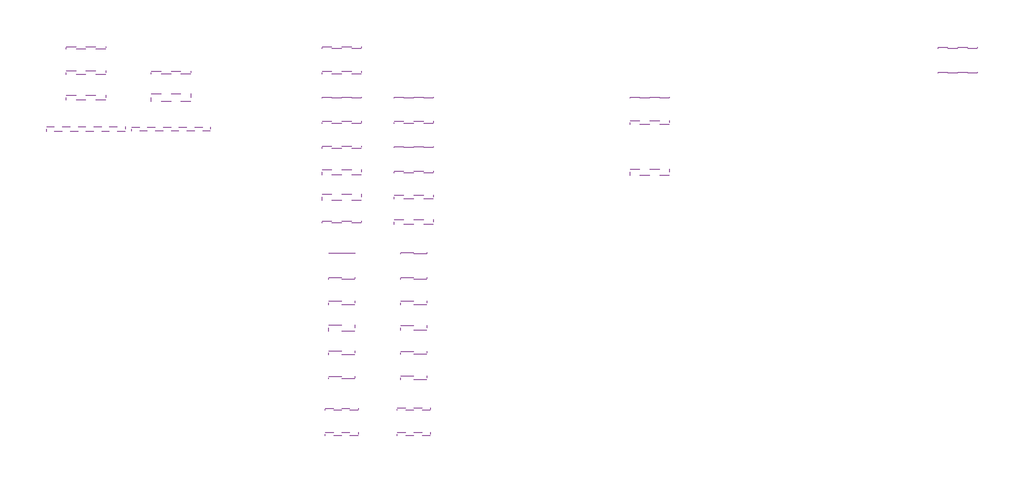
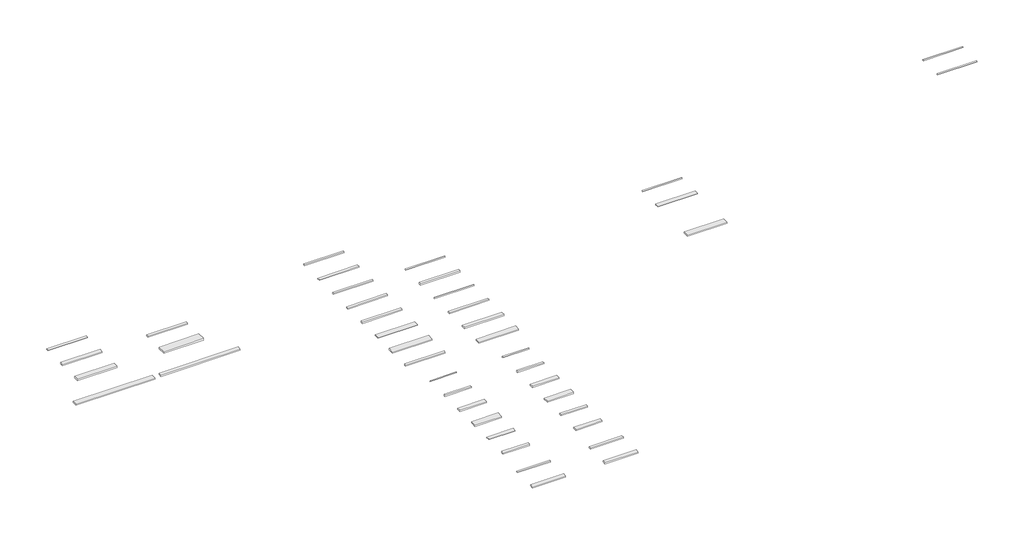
# One storey: 42 cable carrier segments.
"""IFC4 building model written with IfcOpenShell, lengths in millimetres."""

from ifc_helpers import new_model, si_unit, frame, origin, place, context, project, spatial, polyline, outline, extrude, element, save

model = new_model("IFC4")

# Units and contexts
model_context = context("Model", 3, world=origin())
ifc_project = project(units=[si_unit("LENGTHUNIT", "METRE", prefix="MILLI")], contexts=[model_context])

# Site, building, storey
site = spatial("IfcSite", under=ifc_project)
building = spatial("IfcBuilding", under=site)
storey = spatial("IfcBuildingStorey", under=building, Name="Этаж 01", Elevation=0.0)

# Cable carrier segments
placement = place(None, origin())
element("IfcCableCarrierSegment", 1, ObjectType="IEK_Листовой_перфорированный_L3000_t0.45_BBP", at=placement, inside=storey, context=model_context, shape_type="SweptSolid", body=[
    extrude(outline(polyline([(250.0, -3425.0), (250.0, -3275.0), (3250.0, -3275.0), (3250.0, -3425.0), (250.0, -3425.0)])), frame((0.0, 0.0, 2975.0), z_axis=(0.0, 0.0, 1.0), x_axis=(1.0, 0.0, 0.0)), (0.0, 0.0, 1.0), 50.0),
])
element("IfcCableCarrierSegment", 2, ObjectType="IEK_Листовой_перфорированный_L3000_t0.55_SZ", at=placement, inside=storey, context=model_context, shape_type="SweptSolid", body=[
    extrude(outline(polyline([(250.0, -5350.0), (250.0, -5150.0), (3250.0, -5150.0), (3250.0, -5350.0), (250.0, -5350.0)])), frame((0.0, 0.0, 2975.0), z_axis=(0.0, 0.0, 1.0), x_axis=(1.0, 0.0, 0.0)), (0.0, 0.0, 1.0), 50.0),
])
element("IfcCableCarrierSegment", 3, ObjectType="IEK_Листовой_перфорированный_L3000_t0.7_SZ", at=placement, inside=storey, context=model_context, shape_type="SweptSolid", body=[
    extrude(outline(polyline([(250.0, -7200.0), (250.0, -7100.0), (3250.0, -7100.0), (3250.0, -7200.0), (250.0, -7200.0)])), frame((0.0, 0.0, 2950.0), z_axis=(0.0, 0.0, 1.0), x_axis=(1.0, 0.0, 0.0)), (0.0, 0.0, 1.0), 100.0),
])
element("IfcCableCarrierSegment", 4, ObjectType="IEK_Листовой_перфорированный_L3000_t0.8_SZ", at=placement, inside=storey, context=model_context, shape_type="SweptSolid", body=[
    extrude(outline(polyline([(250.0, -9150.0), (250.0, -8950.0), (3250.0, -8950.0), (3250.0, -9150.0), (250.0, -9150.0)])), frame((0.0, 0.0, 2960.0), z_axis=(0.0, 0.0, 1.0), x_axis=(1.0, 0.0, 0.0)), (0.0, 0.0, 1.0), 80.0),
])
element("IfcCableCarrierSegment", 5, ObjectType="IEK_Листовой_перфорированный_L3000_t1.0_SZ", at=placement, inside=storey, context=model_context, shape_type="SweptSolid", body=[
    extrude(outline(polyline([(250.0, -11050.0), (250.0, -10850.0), (3250.0, -10850.0), (3250.0, -11050.0), (250.0, -11050.0)])), frame((0.0, 0.0, 2950.0), z_axis=(0.0, 0.0, 1.0), x_axis=(1.0, 0.0, 0.0)), (0.0, 0.0, 1.0), 100.0),
])
element("IfcCableCarrierSegment", 6, ObjectType="IEK_Листовой_перфорированный_L3000_t1.2_SZ", at=placement, inside=storey, context=model_context, shape_type="SweptSolid", body=[
    extrude(outline(polyline([(250.0, -13050.0), (250.0, -12650.0), (3250.0, -12650.0), (3250.0, -13050.0), (250.0, -13050.0)])), frame((0.0, 0.0, 2975.0), z_axis=(0.0, 0.0, 1.0), x_axis=(1.0, 0.0, 0.0)), (0.0, 0.0, 1.0), 50.0),
])
element("IfcCableCarrierSegment", 7, ObjectType="IEK_Листовой_перфорированный_L3000_t1.5_SZ", at=placement, inside=storey, context=model_context, shape_type="SweptSolid", body=[
    extrude(outline(polyline([(250.0, -15000.0), (250.0, -14500.0), (3250.0, -14500.0), (3250.0, -15000.0), (250.0, -15000.0)])), frame((0.0, 0.0, 2950.0), z_axis=(0.0, 0.0, 1.0), x_axis=(1.0, 0.0, 0.0)), (0.0, 0.0, 1.0), 100.0),
])
element("IfcCableCarrierSegment", 8, ObjectType="IEK_Листовой_перфорированный_L3000_t2.0_SZ", at=placement, inside=storey, context=model_context, shape_type="SweptSolid", body=[
    extrude(outline(polyline([(250.0, -16725.0), (250.0, -16575.0), (3250.0, -16575.0), (3250.0, -16725.0), (250.0, -16725.0)])), frame((0.0, 0.0, 2950.0), z_axis=(0.0, 0.0, 1.0), x_axis=(1.0, 0.0, 0.0)), (0.0, 0.0, 1.0), 100.0),
])
element("IfcCableCarrierSegment", 9, ObjectType="IEK_Листовой_перфорированный_L2000_t0.7_SZ", at=placement, inside=storey, context=model_context, shape_type="SweptSolid", body=[
    extrude(outline(polyline([(750.0, -19075.0), (750.0, -19025.0), (2750.0, -19025.0), (2750.0, -19075.0), (750.0, -19075.0)])), frame((0.0, 0.0, 2975.0), z_axis=(0.0, 0.0, 1.0), x_axis=(1.0, 0.0, 0.0)), (0.0, 0.0, 1.0), 50.0),
])
element("IfcCableCarrierSegment", 10, ObjectType="IEK_Листовой_перфорированный_L2000_t0.8_SZ", at=placement, inside=storey, context=model_context, shape_type="SweptSolid", body=[
    extrude(outline(polyline([(750.0, -21025.0), (750.0, -20875.0), (2750.0, -20875.0), (2750.0, -21025.0), (750.0, -21025.0)])), frame((0.0, 0.0, 2950.0), z_axis=(0.0, 0.0, 1.0), x_axis=(1.0, 0.0, 0.0)), (0.0, 0.0, 1.0), 100.0),
])
element("IfcCableCarrierSegment", 11, ObjectType="IEK_Листовой_перфорированный_L2000_t1.0_SZ", at=placement, inside=storey, context=model_context, shape_type="SweptSolid", body=[
    extrude(outline(polyline([(750.0, -23000.0), (750.0, -22700.0), (2750.0, -22700.0), (2750.0, -23000.0), (750.0, -23000.0)])), frame((0.0, 0.0, 2950.0), z_axis=(0.0, 0.0, 1.0), x_axis=(1.0, 0.0, 0.0)), (0.0, 0.0, 1.0), 100.0),
])
element("IfcCableCarrierSegment", 12, ObjectType="IEK_Листовой_перфорированный_L2500_t1.5_SZ", at=placement, inside=storey, context=model_context, shape_type="SweptSolid", body=[
    extrude(outline(polyline([(500.0, -31025.0), (500.0, -30875.0), (3000.0, -30875.0), (3000.0, -31025.0), (500.0, -31025.0)])), frame((0.0, 0.0, 2975.0), z_axis=(0.0, 0.0, 1.0), x_axis=(1.0, 0.0, 0.0)), (0.0, 0.0, 1.0), 50.0),
])
element("IfcCableCarrierSegment", 13, ObjectType="IEK_Листовой_перфорированный_L2500_t2.0_SZ", at=placement, inside=storey, context=model_context, shape_type="SweptSolid", body=[
    extrude(outline(polyline([(500.0, -33000.0), (500.0, -32700.0), (3000.0, -32700.0), (3000.0, -33000.0), (500.0, -33000.0)])), frame((0.0, 0.0, 2960.0), z_axis=(0.0, 0.0, 1.0), x_axis=(1.0, 0.0, 0.0)), (0.0, 0.0, 1.0), 80.0),
])
element("IfcCableCarrierSegment", 14, ObjectType="IEK_Листовой_перфорированный_L3000_t1.0_HDZ", at=placement, inside=storey, context=model_context, shape_type="SweptSolid", body=[
    extrude(outline(polyline([(5750.0, -10990.0), (5750.0, -10910.0), (8750.0, -10910.0), (8750.0, -10990.0), (5750.0, -10990.0)])), frame((0.0, 0.0, 2960.0), z_axis=(0.0, 0.0, 1.0), x_axis=(1.0, 0.0, 0.0)), (0.0, 0.0, 1.0), 80.0),
])
element("IfcCableCarrierSegment", 15, ObjectType="IEK_Листовой_перфорированный_L3000_t1.2_HDZ", at=placement, inside=storey, context=model_context, shape_type="SweptSolid", body=[
    extrude(outline(polyline([(5750.0, -12925.0), (5750.0, -12775.0), (8750.0, -12775.0), (8750.0, -12925.0), (5750.0, -12925.0)])), frame((0.0, 0.0, 2960.0), z_axis=(0.0, 0.0, 1.0), x_axis=(1.0, 0.0, 0.0)), (0.0, 0.0, 1.0), 80.0),
])
element("IfcCableCarrierSegment", 16, ObjectType="IEK_Листовой_перфорированный_L3000_t1.5_HDZ", at=placement, inside=storey, context=model_context, shape_type="SweptSolid", body=[
    extrude(outline(polyline([(5750.0, -14900.0), (5750.0, -14600.0), (8750.0, -14600.0), (8750.0, -14900.0), (5750.0, -14900.0)])), frame((0.0, 0.0, 2950.0), z_axis=(0.0, 0.0, 1.0), x_axis=(1.0, 0.0, 0.0)), (0.0, 0.0, 1.0), 100.0),
])
element("IfcCableCarrierSegment", 17, ObjectType="IEK_Листовой_перфорированный_L3000_t2.0_HDZ", at=placement, inside=storey, context=model_context, shape_type="SweptSolid", body=[
    extrude(outline(polyline([(5750.0, -16850.0), (5750.0, -16450.0), (8750.0, -16450.0), (8750.0, -16850.0), (5750.0, -16850.0)])), frame((0.0, 0.0, 2950.0), z_axis=(0.0, 0.0, 1.0), x_axis=(1.0, 0.0, 0.0)), (0.0, 0.0, 1.0), 100.0),
])
element("IfcCableCarrierSegment", 18, ObjectType="IEK_Листовой_перфорированный_L2000_t1.2_SZ", at=placement, inside=storey, context=model_context, shape_type="SweptSolid", body=[
    extrude(outline(polyline([(750.0, -25000.0), (750.0, -24500.0), (2750.0, -24500.0), (2750.0, -25000.0), (750.0, -25000.0)])), frame((0.0, 0.0, 2950.0), z_axis=(0.0, 0.0, 1.0), x_axis=(1.0, 0.0, 0.0)), (0.0, 0.0, 1.0), 100.0),
])
element("IfcCableCarrierSegment", 19, ObjectType="IEK_Листовой_перфорированный_L2000_t1.5_SZ", at=placement, inside=storey, context=model_context, shape_type="SweptSolid", body=[
    extrude(outline(polyline([(750.0, -26800.0), (750.0, -26500.0), (2750.0, -26500.0), (2750.0, -26800.0), (750.0, -26800.0)])), frame((0.0, 0.0, 2975.0), z_axis=(0.0, 0.0, 1.0), x_axis=(1.0, 0.0, 0.0)), (0.0, 0.0, 1.0), 50.0),
])
element("IfcCableCarrierSegment", 20, ObjectType="IEK_Листовой_перфорированный_L2000_t2.0_SZ", at=placement, inside=storey, context=model_context, shape_type="SweptSolid", body=[
    extrude(outline(polyline([(750.0, -28650.0), (750.0, -28450.0), (2750.0, -28450.0), (2750.0, -28650.0), (750.0, -28650.0)])), frame((0.0, 0.0, 2950.0), z_axis=(0.0, 0.0, 1.0), x_axis=(1.0, 0.0, 0.0)), (0.0, 0.0, 1.0), 100.0),
])
element("IfcCableCarrierSegment", 21, ObjectType="IEK_Листовой_перфорированный_L3000_t0.7_HDZ", at=placement, inside=storey, context=model_context, shape_type="SweptSolid", body=[
    extrude(outline(polyline([(5750.0, -7200.0), (5750.0, -7100.0), (8750.0, -7100.0), (8750.0, -7200.0), (5750.0, -7200.0)])), frame((0.0, 0.0, 2975.0), z_axis=(0.0, 0.0, 1.0), x_axis=(1.0, 0.0, 0.0)), (0.0, 0.0, 1.0), 50.0),
])
element("IfcCableCarrierSegment", 22, ObjectType="IEK_Листовой_перфорированный_L3000_t0.8_HDZ", at=placement, inside=storey, context=model_context, shape_type="SweptSolid", body=[
    extrude(outline(polyline([(5750.0, -9150.0), (5750.0, -8950.0), (8750.0, -8950.0), (8750.0, -9150.0), (5750.0, -9150.0)])), frame((0.0, 0.0, 2950.0), z_axis=(0.0, 0.0, 1.0), x_axis=(1.0, 0.0, 0.0)), (0.0, 0.0, 1.0), 100.0),
])
element("IfcCableCarrierSegment", 23, ObjectType="IEK_Листовой_перфорированный_L2000_t0.7_HDZ", at=placement, inside=storey, context=model_context, shape_type="SweptSolid", body=[
    extrude(outline(polyline([(6250.0, -19100.0), (6250.0, -19000.0), (8250.0, -19000.0), (8250.0, -19100.0), (6250.0, -19100.0)])), frame((0.0, 0.0, 2975.0), z_axis=(0.0, 0.0, 1.0), x_axis=(1.0, 0.0, 0.0)), (0.0, 0.0, 1.0), 50.0),
])
element("IfcCableCarrierSegment", 24, ObjectType="IEK_Листовой_перфорированный_L2000_t0.8_HDZ", at=placement, inside=storey, context=model_context, shape_type="SweptSolid", body=[
    extrude(outline(polyline([(6250.0, -21025.0), (6250.0, -20875.0), (8250.0, -20875.0), (8250.0, -21025.0), (6250.0, -21025.0)])), frame((0.0, 0.0, 2950.0), z_axis=(0.0, 0.0, 1.0), x_axis=(1.0, 0.0, 0.0)), (0.0, 0.0, 1.0), 100.0),
])
element("IfcCableCarrierSegment", 25, ObjectType="IEK_Листовой_перфорированный_L2000_t1.0_HDZ", at=placement, inside=storey, context=model_context, shape_type="SweptSolid", body=[
    extrude(outline(polyline([(6250.0, -23000.0), (6250.0, -22700.0), (8250.0, -22700.0), (8250.0, -23000.0), (6250.0, -23000.0)])), frame((0.0, 0.0, 2950.0), z_axis=(0.0, 0.0, 1.0), x_axis=(1.0, 0.0, 0.0)), (0.0, 0.0, 1.0), 100.0),
])
element("IfcCableCarrierSegment", 26, ObjectType="IEK_Листовой_перфорированный_L2000_t1.2_HDZ", at=placement, inside=storey, context=model_context, shape_type="SweptSolid", body=[
    extrude(outline(polyline([(6250.0, -24950.0), (6250.0, -24550.0), (8250.0, -24550.0), (8250.0, -24950.0), (6250.0, -24950.0)])), frame((0.0, 0.0, 2950.0), z_axis=(0.0, 0.0, 1.0), x_axis=(1.0, 0.0, 0.0)), (0.0, 0.0, 1.0), 100.0),
])
element("IfcCableCarrierSegment", 27, ObjectType="IEK_Листовой_перфорированный_L2000_t1.5_HDZ", at=placement, inside=storey, context=model_context, shape_type="SweptSolid", body=[
    extrude(outline(polyline([(6250.0, -26750.0), (6250.0, -26550.0), (8250.0, -26550.0), (8250.0, -26750.0), (6250.0, -26750.0)])), frame((0.0, 0.0, 2960.0), z_axis=(0.0, 0.0, 1.0), x_axis=(1.0, 0.0, 0.0)), (0.0, 0.0, 1.0), 80.0),
])
element("IfcCableCarrierSegment", 28, ObjectType="IEK_Листовой_перфорированный_L2000_t2.0_HDZ", at=placement, inside=storey, context=model_context, shape_type="SweptSolid", body=[
    extrude(outline(polyline([(6250.0, -28700.0), (6250.0, -28400.0), (8250.0, -28400.0), (8250.0, -28700.0), (6250.0, -28700.0)])), frame((0.0, 0.0, 2960.0), z_axis=(0.0, 0.0, 1.0), x_axis=(1.0, 0.0, 0.0)), (0.0, 0.0, 1.0), 80.0),
])
element("IfcCableCarrierSegment", 29, ObjectType="IEK_Листовой_перфорированный_L2500_t1.5_HDZ", at=placement, inside=storey, context=model_context, shape_type="SweptSolid", body=[
    extrude(outline(polyline([(6000.0, -31050.0), (6000.0, -30850.0), (8500.0, -30850.0), (8500.0, -31050.0), (6000.0, -31050.0)])), frame((0.0, 0.0, 2960.0), z_axis=(0.0, 0.0, 1.0), x_axis=(1.0, 0.0, 0.0)), (0.0, 0.0, 1.0), 80.0),
])
element("IfcCableCarrierSegment", 30, ObjectType="IEK_Листовой_перфорированный_L2500_t2.0_HDZ", at=placement, inside=storey, context=model_context, shape_type="SweptSolid", body=[
    extrude(outline(polyline([(6000.0, -33000.0), (6000.0, -32700.0), (8500.0, -32700.0), (8500.0, -33000.0), (6000.0, -33000.0)])), frame((0.0, 0.0, 2950.0), z_axis=(0.0, 0.0, 1.0), x_axis=(1.0, 0.0, 0.0)), (0.0, 0.0, 1.0), 100.0),
])
element("IfcCableCarrierSegment", 31, ObjectType="IEK_Лестничный_L3000_t1.0_SZ", at=placement, inside=storey, context=model_context, shape_type="SweptSolid", body=[
    extrude(outline(polyline([(-19270.0, -3450.0), (-19270.0, -3250.0), (-16270.0, -3250.0), (-16270.0, -3450.0), (-19270.0, -3450.0)])), frame((0.0, 0.0, 2972.5), z_axis=(0.0, 0.0, 1.0), x_axis=(1.0, 0.0, 0.0)), (0.0, 0.0, 1.0), 55.0),
])
element("IfcCableCarrierSegment", 32, ObjectType="IEK_Лестничный_L3000_t1.2_SZ", at=placement, inside=storey, context=model_context, shape_type="SweptSolid", body=[
    extrude(outline(polyline([(-19270.0, -5400.0), (-19270.0, -5100.0), (-16270.0, -5100.0), (-16270.0, -5400.0), (-19270.0, -5400.0)])), frame((0.0, 0.0, 2950.0), z_axis=(0.0, 0.0, 1.0), x_axis=(1.0, 0.0, 0.0)), (0.0, 0.0, 1.0), 100.0),
])
element("IfcCableCarrierSegment", 33, ObjectType="IEK_Лестничный_L3000_t1.5_SZ", at=placement, inside=storey, context=model_context, shape_type="SweptSolid", body=[
    extrude(outline(polyline([(-19270.0, -7350.0), (-19270.0, -6950.0), (-16270.0, -6950.0), (-16270.0, -7350.0), (-19270.0, -7350.0)])), frame((0.0, 0.0, 2950.0), z_axis=(0.0, 0.0, 1.0), x_axis=(1.0, 0.0, 0.0)), (0.0, 0.0, 1.0), 100.0),
])
element("IfcCableCarrierSegment", 34, ObjectType="IEK_Лестничный_L6000_t1.5_SZ", at=placement, inside=storey, context=model_context, shape_type="SweptSolid", body=[
    extrude(outline(polyline([(-20770.0, -9750.0), (-20770.0, -9350.0), (-14770.0, -9350.0), (-14770.0, -9750.0), (-20770.0, -9750.0)])), frame((0.0, 0.0, 2960.0), z_axis=(0.0, 0.0, 1.0), x_axis=(1.0, 0.0, 0.0)), (0.0, 0.0, 1.0), 80.0),
])
element("IfcCableCarrierSegment", 35, ObjectType="IEK_Лестничный_L3000_t1.2_HDZ", at=placement, inside=storey, context=model_context, shape_type="SweptSolid", body=[
    extrude(outline(polyline([(-12770.0, -5350.0), (-12770.0, -5150.0), (-9770.0, -5150.0), (-9770.0, -5350.0), (-12770.0, -5350.0)])), frame((0.0, 0.0, 2960.0), z_axis=(0.0, 0.0, 1.0), x_axis=(1.0, 0.0, 0.0)), (0.0, 0.0, 1.0), 80.0),
])
element("IfcCableCarrierSegment", 36, ObjectType="IEK_Лестничный_L3000_t1.5_HDZ", at=placement, inside=storey, context=model_context, shape_type="SweptSolid", body=[
    extrude(outline(polyline([(-12770.0, -7450.0), (-12770.0, -6850.0), (-9770.0, -6850.0), (-9770.0, -7450.0), (-12770.0, -7450.0)])), frame((0.0, 0.0, 2925.0), z_axis=(0.0, 0.0, 1.0), x_axis=(1.0, 0.0, 0.0)), (0.0, 0.0, 1.0), 150.0),
])
element("IfcCableCarrierSegment", 37, ObjectType="IEK_Лестничный_L6000_t1.5_HDZ", at=placement, inside=storey, context=model_context, shape_type="SweptSolid", body=[
    extrude(outline(polyline([(-14270.0, -9700.0), (-14270.0, -9400.0), (-8270.0, -9400.0), (-8270.0, -9700.0), (-14270.0, -9700.0)])), frame((0.0, 0.0, 2950.0), z_axis=(0.0, 0.0, 1.0), x_axis=(1.0, 0.0, 0.0)), (0.0, 0.0, 1.0), 100.0),
])
element("IfcCableCarrierSegment", 38, ObjectType="IEK_Листовой_неперфорированный_L3000_t0.7_SZ", at=placement, inside=storey, context=model_context, shape_type="SweptSolid", body=[
    extrude(outline(polyline([(23750.0, -7200.0), (23750.0, -7100.0), (26750.0, -7100.0), (26750.0, -7200.0), (23750.0, -7200.0)])), frame((0.0, 0.0, 2975.0), z_axis=(0.0, 0.0, 1.0), x_axis=(1.0, 0.0, 0.0)), (0.0, 0.0, 1.0), 50.0),
])
element("IfcCableCarrierSegment", 39, ObjectType="IEK_Листовой_неперфорированный_L3000_t0.8_SZ", at=placement, inside=storey, context=model_context, shape_type="SweptSolid", body=[
    extrude(outline(polyline([(23750.0, -9200.0), (23750.0, -8900.0), (26750.0, -8900.0), (26750.0, -9200.0), (23750.0, -9200.0)])), frame((0.0, 0.0, 2975.0), z_axis=(0.0, 0.0, 1.0), x_axis=(1.0, 0.0, 0.0)), (0.0, 0.0, 1.0), 50.0),
])
element("IfcCableCarrierSegment", 40, ObjectType="IEK_Листовой_неперфорированный_L3000_t1.2_SZ", at=placement, inside=storey, context=model_context, shape_type="SweptSolid", body=[
    extrude(outline(polyline([(23750.0, -13100.0), (23750.0, -12600.0), (26750.0, -12600.0), (26750.0, -13100.0), (23750.0, -13100.0)])), frame((0.0, 0.0, 2960.0), z_axis=(0.0, 0.0, 1.0), x_axis=(1.0, 0.0, 0.0)), (0.0, 0.0, 1.0), 80.0),
])
element("IfcCableCarrierSegment", 41, ObjectType="IEK_Проволочный_L3000_t3.8_EZ", at=placement, inside=storey, context=model_context, shape_type="SweptSolid", body=[
    extrude(outline(polyline([(47250.0, -3400.0), (47250.0, -3300.0), (50250.0, -3300.0), (50250.0, -3400.0), (47250.0, -3400.0)])), frame((0.0, 0.0, 2975.0), z_axis=(0.0, 0.0, 1.0), x_axis=(1.0, 0.0, 0.0)), (0.0, 0.0, 1.0), 50.0),
])
element("IfcCableCarrierSegment", 42, ObjectType="IEK_Проволочный_L3000_t4.8_EZ", at=placement, inside=storey, context=model_context, shape_type="SweptSolid", body=[
    extrude(outline(polyline([(47250.0, -5300.0), (47250.0, -5200.0), (50250.0, -5200.0), (50250.0, -5300.0), (47250.0, -5300.0)])), frame((0.0, 0.0, 2975.0), z_axis=(0.0, 0.0, 1.0), x_axis=(1.0, 0.0, 0.0)), (0.0, 0.0, 1.0), 50.0),
])

save(model, "model.ifc")
